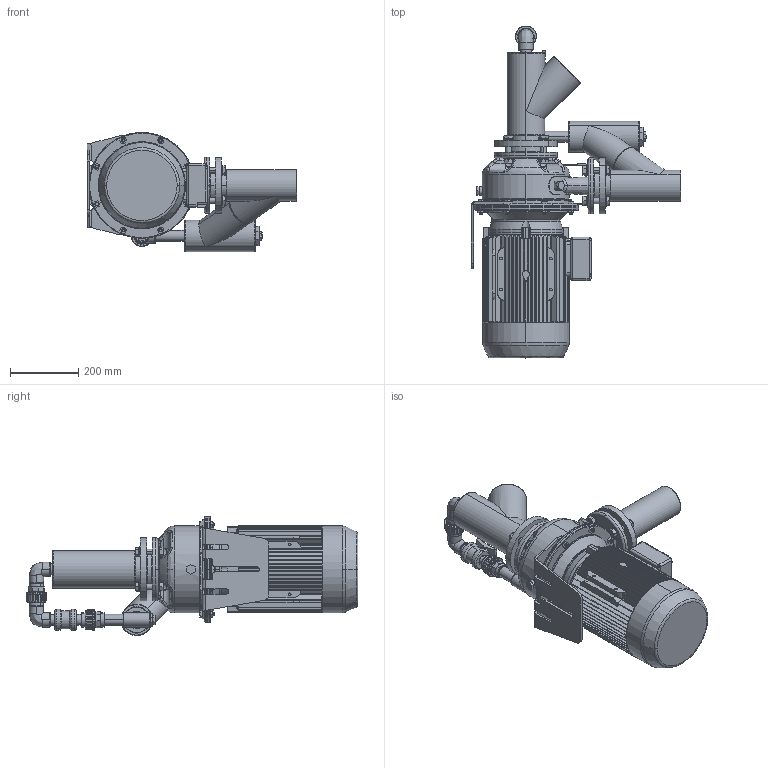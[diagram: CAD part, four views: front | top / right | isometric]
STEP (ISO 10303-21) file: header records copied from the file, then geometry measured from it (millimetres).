
FILE_DESCRIPTION (( 'STEP AP203' ), '1' );
FILE_NAME ('Lowara SHE 50-200 z.a.z handbed. by-pass.STEP', '2011-04-07T09:21:05', ( '' ), ( '' ), 'SwSTEP 2.0', 'SolidWorks 2010', '' );
FILE_SCHEMA (( 'CONFIG_CONTROL_DESIGN' ));
Length unit declared in the file: millimetre
Products named in the file (1): Lowara SHE 50-200 z.a.z handbed. by-pass
Bounding box: 613.48 x 972.89 x 348.9 mm (x, y, z)
Volume: 31928398.6 mm3; surface area: 2866853.8 mm2
Topology: 62 solids, 64 shells, 2852 faces, 7223 edges, 4508 vertices
Faces by surface type: plane 1081, cylinder 896, cone 479, bspline 376, torus 20
Entity records: 110998 total; most frequent: CARTESIAN_POINT 45696, ORIENTED_EDGE 14250, DIRECTION 13007, EDGE_CURVE 7125, AXIS2_PLACEMENT_3D 5167, VERTEX_POINT 4508, EDGE_LOOP 3123, ADVANCED_FACE 2852
